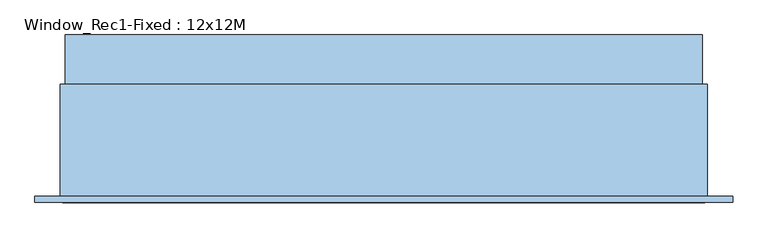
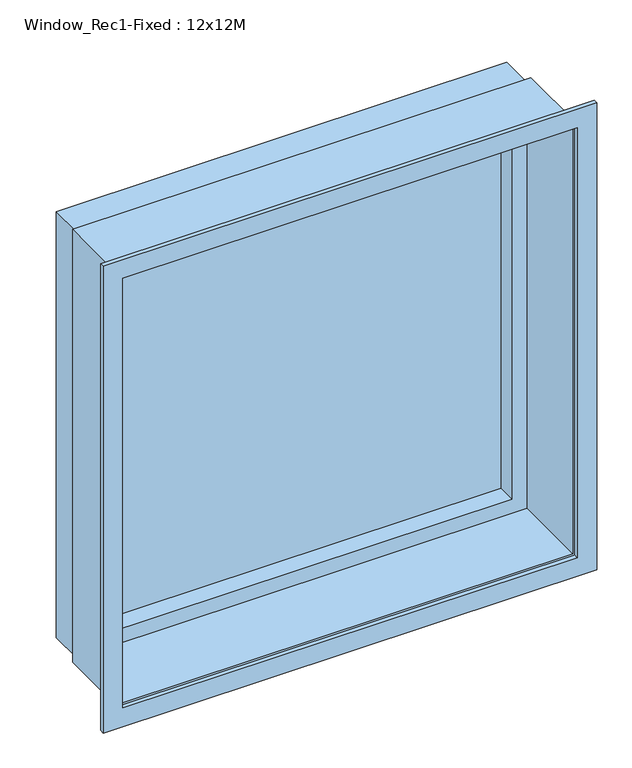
"""IFC4 building model written with IfcOpenShell, lengths in millimetres: window geometry, Window_Rec1-Fixed : 12x12M."""

from ifc_helpers import new_model, si_unit, frame, origin, place, context, project, spatial, polyline, outline, extrude, source, transform, mapped, element, save


def window_rec1_fixed_12x12m_3c0eb35d(model_context):
    return source(origin(), model_context, "Body", "SweptSolid", [
        extrude(outline(polyline([(2790.0, 690.0), (2790.0, -500.0), (1600.0, -500.0), (1600.0, 690.0), (2790.0, 690.0)]), holes=[polyline([(1640.0, 650.0), (1640.0, -460.0), (2750.0, -460.0), (2750.0, 650.0), (1640.0, 650.0)])]), frame((0.0, 59.8369888, 0.0), z_axis=(0.0, 1.0, 0.0), x_axis=(0.0, 0.0, 1.0)), (0.0, 0.0, 1.0), 92.0),
        extrude(outline(polyline([(650.0, 109.3369888), (-460.0, 109.3369888), (-460.0, 134.3369888), (650.0, 134.3369888), (650.0, 109.3369888)])), frame((0.0, 0.0, 1640.0), z_axis=(0.0, 0.0, 1.0), x_axis=(1.0, 0.0, 0.0)), (0.0, 0.0, 1.0), 1110.0),
        extrude(outline(polyline([(2800.0, 700.0), (2800.0, -510.0), (1590.0, -510.0), (1590.0, 700.0), (2800.0, 700.0)]), holes=[polyline([(1600.0, -500.0), (2790.0, -500.0), (2790.0, 690.0), (1600.0, 690.0), (1600.0, -500.0)])]), frame((0.0, -149.1630112, 0.0), z_axis=(0.0, 1.0, 0.0), x_axis=(0.0, 0.0, 1.0)), (0.0, 0.0, 1.0), 209.0),
        extrude(outline(polyline([(2847.0, 747.0), (2847.0, -557.0), (1543.0, -557.0), (1543.0, 747.0), (2847.0, 747.0)]), holes=[polyline([(1595.0, 695.0), (1595.0, -505.0), (2795.0, -505.0), (2795.0, 695.0), (1595.0, 695.0)])]), frame((0.0, -161.1630112, 0.0), z_axis=(0.0, 1.0, 0.0), x_axis=(0.0, 0.0, 1.0)), (0.0, 0.0, 1.0), 12.0),
    ])


if __name__ == "__main__":
    model = new_model("IFC4")
    model_context = context("Model", 3, world=origin())
    ifc_project = project(units=[si_unit("LENGTHUNIT", "METRE", prefix="MILLI")], contexts=[model_context])
    site = spatial("IfcSite", under=ifc_project)
    building = spatial("IfcBuilding", under=site)
    placement = place(None, origin())
    window_rec1_fixed_12x12m_shape = window_rec1_fixed_12x12m_3c0eb35d(model_context)
    element("IfcWindow", 1, ObjectType="Window_Rec1-Fixed : 12x12M", at=placement, inside=building, context=model_context, shape_type="MappedRepresentation", body=[
        mapped(window_rec1_fixed_12x12m_shape, transform((0.0, 0.0, 0.0), x_axis=(1.0, 0.0, 0.0), y_axis=(0.0, 1.0, 0.0), z_axis=(0.0, 0.0, 1.0))),
    ])
    save(model, "model.ifc")
